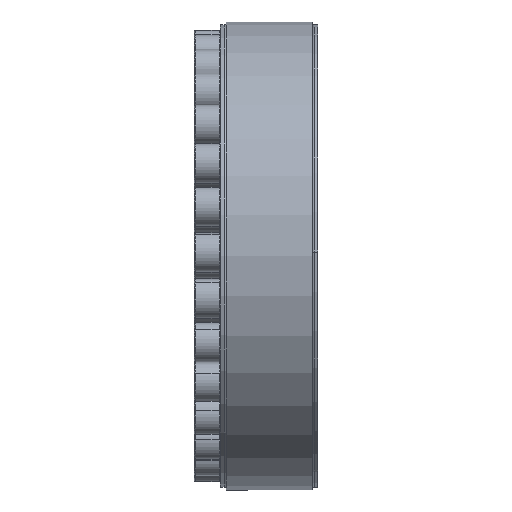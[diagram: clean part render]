
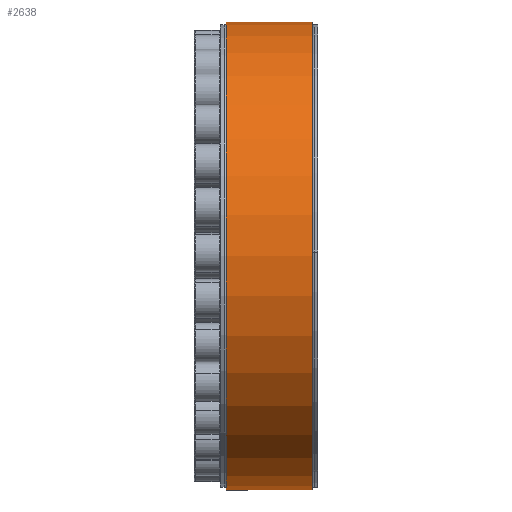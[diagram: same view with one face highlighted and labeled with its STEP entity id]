
A CAD part, top view. The second image highlights one B-rep face of the part: STEP entity #2638.
In plain terms, the highlighted cylindrical face has radius 124.991 mm (diameter 249.982 mm), a partial arc.
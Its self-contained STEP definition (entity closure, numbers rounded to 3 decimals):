
#84 = VECTOR ( 'NONE', #1798, 1000. ) ;
#156 = VERTEX_POINT ( 'NONE', #5683 ) ;
#345 = ORIENTED_EDGE ( 'NONE', *, *, #19548, .F. ) ;
#415 = VERTEX_POINT ( 'NONE', #20226 ) ;
#1131 = CARTESIAN_POINT ( 'NONE',  ( 23., 0., 0. ) ) ;
#1798 = DIRECTION ( 'NONE',  ( -1., 0., 0. ) ) ;
#1916 = VERTEX_POINT ( 'NONE', #8550 ) ;
#2638 = ADVANCED_FACE ( 'NONE', ( #4956 ), #7680, .T. ) ;
#4255 = CIRCLE ( 'NONE', #13235, 124.991 ) ;
#4297 = DIRECTION ( 'NONE',  ( 0., -1., 0. ) ) ;
#4956 = FACE_OUTER_BOUND ( 'NONE', #10893, .T. ) ;
#5683 = CARTESIAN_POINT ( 'NONE',  ( -23., 124.991, 0. ) ) ;
#6547 = DIRECTION ( 'NONE',  ( -1., 0., 0. ) ) ;
#6903 = DIRECTION ( 'NONE',  ( 0., -1., 0. ) ) ;
#7118 = LINE ( 'NONE', #11423, #84 ) ;
#7666 = AXIS2_PLACEMENT_3D ( 'NONE', #1131, #20114, #4297 ) ;
#7680 = CYLINDRICAL_SURFACE ( 'NONE', #14320, 124.991 ) ;
#8023 = ORIENTED_EDGE ( 'NONE', *, *, #18505, .T. ) ;
#8059 = EDGE_CURVE ( 'NONE', #415, #16915, #13311, .T. ) ;
#8550 = CARTESIAN_POINT ( 'NONE',  ( -23., -124.991, 0. ) ) ;
#9503 = CARTESIAN_POINT ( 'NONE',  ( -26., 124.991, 0. ) ) ;
#10893 = EDGE_LOOP ( 'NONE', ( #20525, #8023, #345, #16861 ) ) ;
#11173 = CARTESIAN_POINT ( 'NONE',  ( -26., 0., 0. ) ) ;
#11423 = CARTESIAN_POINT ( 'NONE',  ( -26., -124.991, 0. ) ) ;
#11525 = LINE ( 'NONE', #9503, #16566 ) ;
#11653 = EDGE_CURVE ( 'NONE', #415, #1916, #7118, .T. ) ;
#13235 = AXIS2_PLACEMENT_3D ( 'NONE', #18077, #19768, #6903 ) ;
#13311 = CIRCLE ( 'NONE', #7666, 124.991 ) ;
#14139 = CARTESIAN_POINT ( 'NONE',  ( 23., 124.991, 0. ) ) ;
#14320 = AXIS2_PLACEMENT_3D ( 'NONE', #11173, #6547, #17788 ) ;
#14522 = DIRECTION ( 'NONE',  ( -1., 0., 0. ) ) ;
#16566 = VECTOR ( 'NONE', #14522, 1000. ) ;
#16861 = ORIENTED_EDGE ( 'NONE', *, *, #11653, .F. ) ;
#16915 = VERTEX_POINT ( 'NONE', #14139 ) ;
#17788 = DIRECTION ( 'NONE',  ( 0., -1., 0. ) ) ;
#18077 = CARTESIAN_POINT ( 'NONE',  ( -23., 0., 0. ) ) ;
#18505 = EDGE_CURVE ( 'NONE', #16915, #156, #11525, .T. ) ;
#19548 = EDGE_CURVE ( 'NONE', #1916, #156, #4255, .T. ) ;
#19768 = DIRECTION ( 'NONE',  ( -1., 0., 0. ) ) ;
#20114 = DIRECTION ( 'NONE',  ( -1., 0., 0. ) ) ;
#20226 = CARTESIAN_POINT ( 'NONE',  ( 23., -124.991, 0. ) ) ;
#20525 = ORIENTED_EDGE ( 'NONE', *, *, #8059, .T. ) ;
